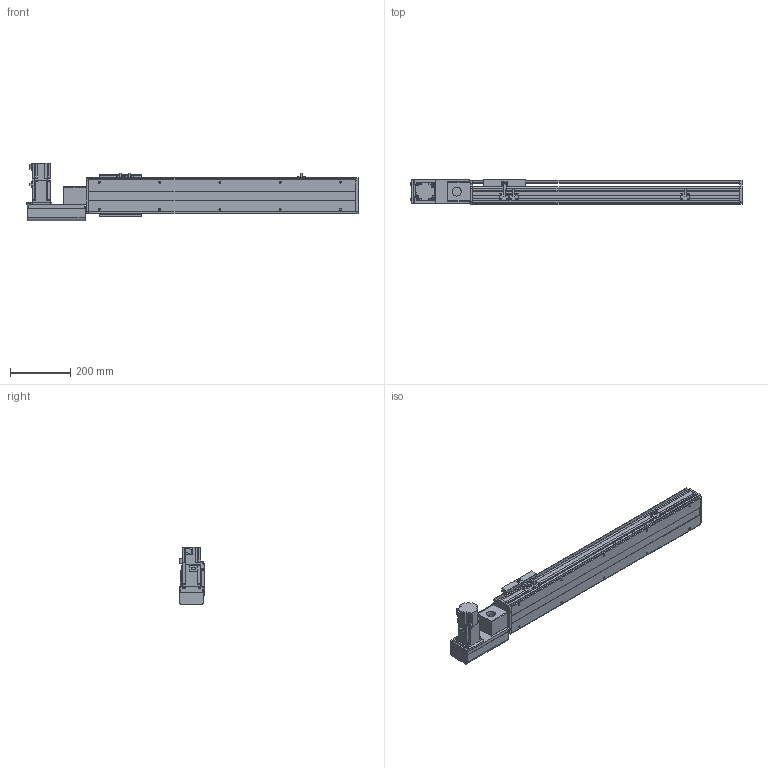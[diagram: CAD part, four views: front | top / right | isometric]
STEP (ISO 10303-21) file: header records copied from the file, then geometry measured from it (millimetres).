
FILE_DESCRIPTION( ( 'STEP AP214' ), '1' );
FILE_NAME( 'x:/temp/worker_26/temp/exporttempdir_3776_57_3wGzz/format_0/PBS120-P40-S600-L-T40-C1-N(0).stp', '2022-06-05T00:24:35', ( 'License CC BY-ND 4.0' ), ( 'CADENAS' ), ' ', 'PARTsolutions', ' ' );
FILE_SCHEMA( ( 'AUTOMOTIVE_DESIGN { 1 0 10303 214 1 1 1 1 }' ) );
Length unit declared in the file: millimetre
Products named in the file (7): PBS120-P40-S600-L-T40-C1-N(0); _PBS120-S600()_body; _PBS120T-L_motors; _T40-p1; _PBS120_sliser; _PBS120_plant; _PBS120_sensor
Assembly tree (8 placements, depth 2):
  PBS120-P40-S600-L-T40-C1-N(0)
    _PBS120-S600()_body
    _PBS120T-L_motors
    _T40-p1
    _PBS120_sliser
    _PBS120_plant
    _PBS120_sensor  x3
Bounding box: 1101 x 83 x 189.7 mm (x, y, z)
Volume: 4659421.1 mm3; surface area: 876390 mm2
Topology: 8 solids, 8 shells, 810 faces, 2126 edges, 1369 vertices
Faces by surface type: plane 543, cylinder 223, cone 42, torus 2
Full cylindrical faces by diameter (mm): 2.459 x6, 3.242 x4, 4 x2, 4.134 x4, 4.5 x10, 4.917 x14, 5.5 x11, 6 x2, 6.6 x1, 7 x2, 8.5 x4, 9 x4, 12 x1, 14 x1, 30 x2, 40 x1, 50 x2
Entity records: 26820 total; most frequent: DIRECTION 3668, CARTESIAN_POINT 3623, ORIENTED_EDGE 3466, EDGE_CURVE 1733, LINE 1228, VECTOR 1228, AXIS2_PLACEMENT_3D 1220, VERTEX_POINT 1175
